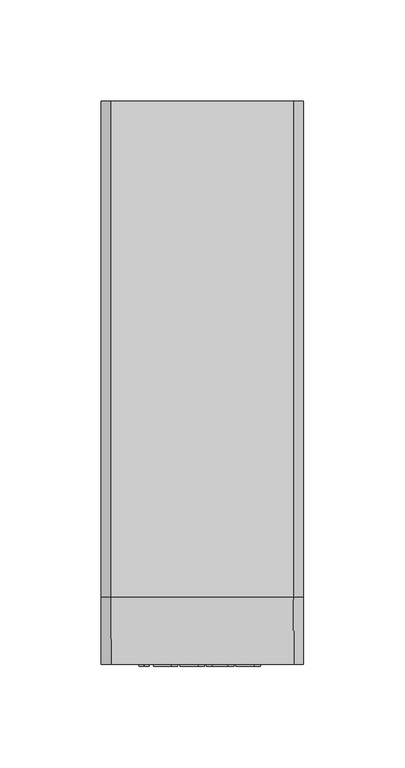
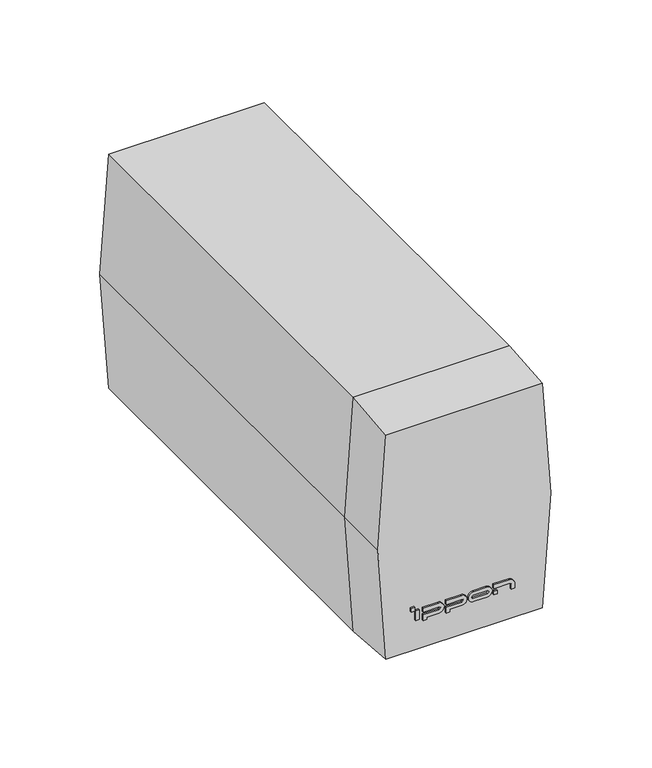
"""IFC4 building model written with IfcOpenShell, lengths in millimetres: proxy geometry, IPPON_ИБП_Innova Back Basic_650_850_1050ВА : Back Basic S Euro 650 ВА."""

from ifc_helpers import new_model, si_unit, point, frame, frame_2d, origin, place, context, project, spatial, polyline, circle_curve, trimmed, segment, composite_curve, outline, extrude, faceted_brep, source, transform, mapped, element, save


def electrical_equipment_6785ab85(model_context):
    return source(origin(), model_context, "Body", "SolidModel", [
        extrude(outline(polyline([(-29.1718133, -1.0), (-31.1718133, -1.0), (-31.1718133, 0.0), (-29.1718133, 0.0), (-29.1718133, -1.0)])), frame((0.0, 0.0, 27.4695835), z_axis=(0.0, 0.0, 1.0), x_axis=(1.0, 0.0, 0.0)), (0.0, 0.0, 1.0), 2.3),
        extrude(outline(polyline([(18.6035474, -1.0), (16.6035474, -1.0), (16.6035474, 0.0), (18.6035474, 0.0), (18.6035474, -1.0)])), frame((0.0, 0.0, 21.4695835), z_axis=(0.0, 0.0, 1.0), x_axis=(1.0, 0.0, 0.0)), (0.0, 0.0, 1.0), 2.2268231),
        extrude(outline(polyline([(-26.438565, -1.0), (-28.4833324, -1.0), (-28.4833324, 0.0), (-26.438565, 0.0), (-26.438565, -1.0)])), frame((0.0, 0.0, 21.4695835), z_axis=(0.0, 0.0, 1.0), x_axis=(1.0, 0.0, 0.0)), (0.0, 0.0, 1.0), 6.0),
        extrude(outline(composite_curve([segment(polyline([(25.2071435, -24.2241109), (25.2071435, -14.9923536)]), True, "CONTINUOUS"), segment(trimmed(circle_curve(frame_2d((24.3506642, -14.9923536)), 0.8564793), [point((25.2071435, -14.9923536))], [point((23.4941849, -14.9923536))], True, "CARTESIAN"), True, "CONTINUOUS"), segment(polyline([(23.4941849, -14.9923536), (23.4941849, -24.2241109), (20.0036803, -24.2241109), (20.0036803, -22.2241109), (21.4695835, -22.2241109), (21.4695835, -15.1486036)]), True, "CONTINUOUS"), segment(trimmed(circle_curve(frame_2d((24.4695835, -15.1486036)), 3.0), [point((21.4695835, -15.1486036))], [point((27.4695835, -15.1486036))], False, "CARTESIAN"), True, "CONTINUOUS"), segment(polyline([(27.4695835, -15.1486036), (27.4695835, -24.2241109), (25.2071435, -24.2241109)]), True, "CONTINUOUS")], self_intersect=False)), frame((0.0, -1.0, 0.0), z_axis=(0.0, 1.0, 0.0), x_axis=(0.0, 0.0, 1.0)), (0.0, 0.0, 1.0), 1.0),
        extrude(outline(composite_curve([segment(polyline([(25.2071435, -11.0171091), (25.2071435, -1.7853518)]), True, "CONTINUOUS"), segment(trimmed(circle_curve(frame_2d((24.3506642, -1.7853518)), 0.8564793), [point((25.2071435, -1.7853518))], [point((23.4941849, -1.7853518))], True, "CARTESIAN"), True, "CONTINUOUS"), segment(polyline([(23.4941849, -1.7853518), (23.4941849, -11.0171091), (20.0036803, -11.0171091), (20.0036803, -9.0171091), (21.4695835, -9.0171091), (21.4695835, -1.9416018)]), True, "CONTINUOUS"), segment(trimmed(circle_curve(frame_2d((24.4695835, -1.9416018)), 3.0), [point((21.4695835, -1.9416018))], [point((27.4695835, -1.9416018))], False, "CARTESIAN"), True, "CONTINUOUS"), segment(polyline([(27.4695835, -1.9416018), (27.4695835, -11.0171091), (25.2071435, -11.0171091)]), True, "CONTINUOUS")], self_intersect=False)), frame((0.0, -1.0, 0.0), z_axis=(0.0, 1.0, 0.0), x_axis=(0.0, 0.0, 1.0)), (0.0, 0.0, 1.0), 1.0),
        extrude(outline(composite_curve([segment(trimmed(circle_curve(frame_2d((24.4695835, 12.558657)), 3.0), [point((21.4695835, 12.558657))], [point((27.4695835, 12.558657))], False, "CARTESIAN"), True, "CONTINUOUS"), segment(polyline([(27.4695835, 12.558657), (27.4695835, 4.958657)]), True, "CONTINUOUS"), segment(trimmed(circle_curve(frame_2d((24.4695835, 4.958657)), 3.0), [point((27.4695835, 4.958657))], [point((21.4695835, 4.958657))], False, "CARTESIAN"), True, "CONTINUOUS"), segment(polyline([(21.4695835, 4.958657), (21.4695835, 12.558657)]), True, "CONTINUOUS")], self_intersect=False), holes=[composite_curve([segment(polyline([(23.4941849, 12.714907), (23.4941849, 4.802407)]), True, "CONTINUOUS"), segment(trimmed(circle_curve(frame_2d((24.3506642, 4.802407)), 0.8564793), [point((23.4941849, 4.802407))], [point((25.2071435, 4.802407))], True, "CARTESIAN"), True, "CONTINUOUS"), segment(polyline([(25.2071435, 4.802407), (25.2071435, 12.714907)]), True, "CONTINUOUS"), segment(trimmed(circle_curve(frame_2d((24.3506642, 12.714907)), 0.8564793), [point((25.2071435, 12.714907))], [point((23.4941849, 12.714907))], True, "CARTESIAN"), True, "CONTINUOUS")], self_intersect=False)]), frame((0.0, -1.0, 0.0), z_axis=(0.0, 1.0, 0.0), x_axis=(0.0, 0.0, 1.0)), (0.0, 0.0, 1.0), 1.0),
        extrude(outline(composite_curve([segment(polyline([(25.2071435, 16.6035474), (25.2071435, 25.8353046)]), True, "CONTINUOUS"), segment(trimmed(circle_curve(frame_2d((24.3506642, 25.8353046)), 0.8564793), [point((25.2071435, 25.8353046))], [point((24.3506642, 26.6917839))], True, "CARTESIAN"), True, "CONTINUOUS"), segment(polyline([(24.3506642, 26.6917839), (21.4695835, 26.6917839), (21.4695835, 28.6317921), (25.0, 28.6317921)]), True, "CONTINUOUS"), segment(trimmed(circle_curve(frame_2d((24.4695835, 25.6790546)), 3.0), [point((25.0, 28.6317921))], [point((27.4695835, 25.6790546))], False, "CARTESIAN"), True, "CONTINUOUS"), segment(polyline([(27.4695835, 25.6790546), (27.4695835, 16.6035474), (25.2071435, 16.6035474)]), True, "CONTINUOUS")], self_intersect=False)), frame((0.0, -1.0, 0.0), z_axis=(0.0, 1.0, 0.0), x_axis=(0.0, 0.0, 1.0)), (0.0, 0.0, 1.0), 1.0),
        faceted_brep([(45.2097902, 0.0, 140.0), (-45.2097902, 0.0, 140.0), (-50.0, 0.0, 71.5), (-45.2097902, 0.0, 3.0), (45.2097902, 0.0, 3.0), (50.0, 0.0, 71.5), (-45.0, 33.0, 143.0), (45.0, 33.0, 143.0), (50.0, 33.0, 71.5), (45.0, 33.0, 0.0), (-45.0, 33.0, 0.0), (-50.0, 33.0, 71.5)], [[[0, 1, 2, 3, 4, 5]], [[6, 7, 8, 9, 10, 11]], [[7, 6, 1, 0]], [[10, 9, 4, 3]], [[5, 8, 7, 0]], [[8, 5, 4, 9]], [[11, 2, 1, 6]], [[2, 11, 10, 3]]]),
        extrude(outline(polyline([(143.0, 45.0), (143.0, -45.0), (71.5, -50.0), (0.0, -45.0), (0.0, 45.0), (71.5, 50.0), (143.0, 45.0)])), frame((0.0, 33.0, 0.0), z_axis=(0.0, 1.0, 0.0), x_axis=(0.0, 0.0, 1.0)), (0.0, 0.0, 1.0), 245.0),
    ])


if __name__ == "__main__":
    model = new_model("IFC4")
    model_context = context("Model", 3, world=origin())
    ifc_project = project(units=[si_unit("LENGTHUNIT", "METRE", prefix="MILLI")], contexts=[model_context])
    site = spatial("IfcSite", under=ifc_project)
    building = spatial("IfcBuilding", under=site)
    placement = place(None, origin())
    electrical_equipment_shape = electrical_equipment_6785ab85(model_context)
    element("IfcBuildingElementProxy", 1, Name="IPPON_ИБП_Innova Back Basic_650_850_1050ВА : Back Basic S Euro 650 ВА", ObjectType="IPPON_ИБП_Innova Back Basic_650_850_1050ВА : Back Basic S Euro 650 ВА", at=placement, inside=building, context=model_context, shape_type="MappedRepresentation", body=[
        mapped(electrical_equipment_shape, transform((0.0, 0.0, 0.0), x_axis=(1.0, 0.0, 0.0), y_axis=(0.0, 1.0, 0.0), z_axis=(0.0, 0.0, 1.0))),
    ])
    save(model, "model.ifc")
